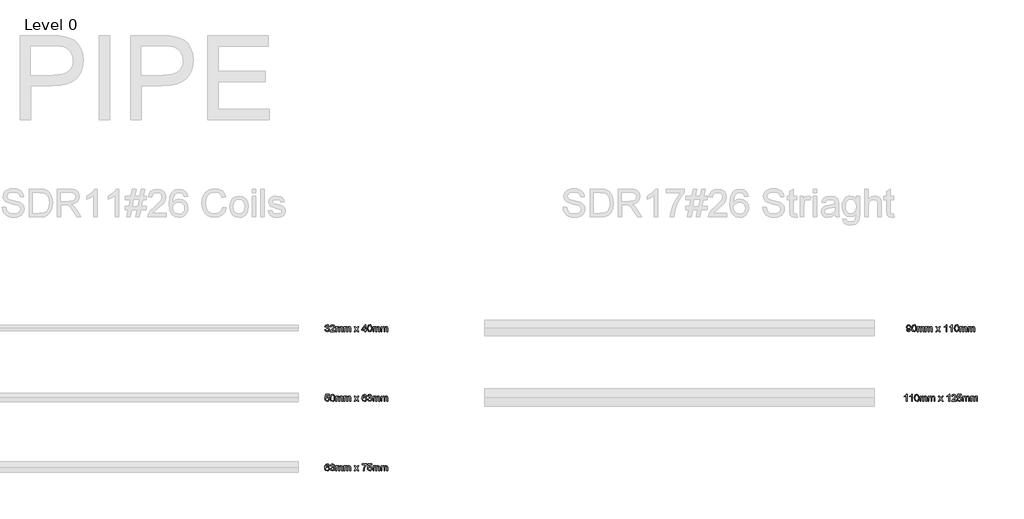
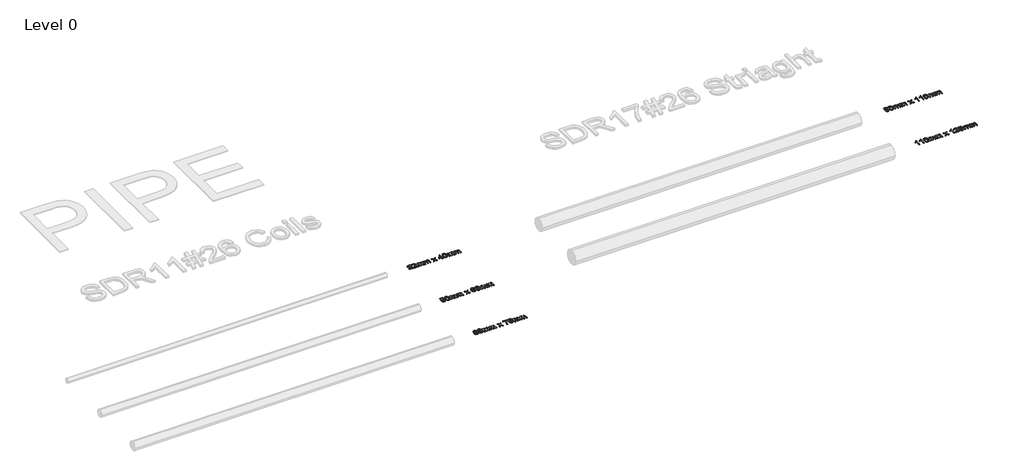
# One storey, part 20 of 21: 5 proxies.
"""IFC4 building model written with IfcOpenShell, lengths in millimetres."""

from ifc_helpers import new_model, si_unit, origin, origin_with_axes, place, context, project, spatial, polyline, outline, extrude, element, save

model = new_model("IFC4")

# Units and contexts
model_context = context("Model", 3, world=origin())
ifc_project = project(units=[si_unit("LENGTHUNIT", "METRE", prefix="MILLI")], contexts=[model_context])

# Site, building, storey
site = spatial("IfcSite", under=ifc_project)
building = spatial("IfcBuilding", under=site)
storey = spatial("IfcBuildingStorey", under=building, Name="Level 0", Elevation=0.0)

# Proxies
placement = place(None, origin())
element("IfcBuildingElementProxy", 1, Name="50mm", ObjectType="50mm", at=placement, inside=storey, context=model_context, shape_type="SweptSolid", body=[
    extrude(outline(polyline([(-5138.5395132, 3335.1305906), (-5132.2609938, 3335.9154055), (-5128.7967717, 3329.3057923), (-5122.3159172, 3327.2824414), (-5114.6884972, 3330.0660818), (-5111.8558058, 3336.9577378), (-5114.6639717, 3343.4508551), (-5121.8008824, 3346.0198977), (-5126.2032036, 3345.3331846), (-5125.5042278, 3351.611704), (-5117.3740358, 3353.3407494), (-5114.2102506, 3358.8835048), (-5116.5033817, 3363.7947294), (-5122.4140191, 3365.7383726), (-5128.3982329, 3363.7763353), (-5131.4761789, 3357.8902234), (-5137.7546983, 3358.6750383), (-5132.6166131, 3368.522013), (-5122.6347483, 3372.016892), (-5115.0625106, 3370.293978), (-5109.7650098, 3365.5850884), (-5107.9317312, 3359.2513868), (-5109.6730393, 3353.4633767), (-5114.8233873, 3349.3063101), (-5107.9807821, 3345.0143535), (-5105.5772864, 3336.8473732), (-5110.3842778, 3325.6147097), (-5122.5366464, 3321.003922), (-5133.5485808, 3324.9402593), (-5138.5395132, 3335.1305906)])), origin_with_axes(), (0.0, 0.0, 1.0), 5.0),
    extrude(outline(polyline([(-5067.9061701, 3328.0672563), (-5067.9061701, 3321.7887369), (-5100.8683969, 3321.7887369), (-5100.1939466, 3326.1174817), (-5096.3802366, 3332.7822772), (-5088.5198246, 3340.0602093), (-5077.6795685, 3350.5203207), (-5074.9695044, 3357.632706), (-5077.5262843, 3363.3900592), (-5084.2033425, 3365.7383726), (-5091.1624436, 3363.4452415), (-5093.8050626, 3357.1054084), (-5100.083582, 3357.8902234), (-5095.2704592, 3368.3993857), (-5084.0684525, 3372.016892), (-5072.8296575, 3367.9947155), (-5068.6909851, 3358.0128507), (-5069.8068938, 3352.0592937), (-5073.5163706, 3345.9034017), (-5082.5110853, 3337.3010944), (-5089.7338352, 3331.2616983), (-5092.5665265, 3328.0672563), (-5067.9061701, 3328.0672563)])), origin_with_axes(), (0.0, 0.0, 1.0), 5.0),
    extrude(outline(polyline([(-5060.0580209, 3321.7887369), (-5060.0580209, 3358.6750383), (-5053.7795015, 3358.6750383), (-5053.7795015, 3352.6049854), (-5049.4630194, 3357.5775237), (-5043.3193901, 3359.4598532), (-5037.028608, 3357.5407355), (-5033.5705173, 3352.163527), (-5028.6715554, 3357.6357717), (-5022.4850065, 3359.4598532), (-5014.2751066, 3356.4248268), (-5011.3994957, 3347.0744927), (-5011.3994957, 3321.7887369), (-5017.6780151, 3321.7887369), (-5017.6780151, 3344.3766914), (-5018.2604949, 3349.6190098), (-5020.369685, 3352.2003152), (-5023.9565344, 3353.1813338), (-5030.1308206, 3350.6674735), (-5032.5894986, 3342.6108578), (-5032.5894986, 3321.7887369), (-5038.868018, 3321.7887369), (-5038.868018, 3345.0756672), (-5040.3211519, 3351.1579829), (-5045.0852237, 3353.1813338), (-5049.7327996, 3351.8324332), (-5052.8230083, 3347.8838331), (-5053.7795015, 3340.3913031), (-5053.7795015, 3321.7887369), (-5060.0580209, 3321.7887369)])), origin_with_axes(), (0.0, 0.0, 1.0), 5.0),
    extrude(outline(polyline([(-5001.9817166, 3321.7887369), (-5001.9817166, 3358.6750383), (-4995.7031972, 3358.6750383), (-4995.7031972, 3352.6049854), (-4991.3867151, 3357.5775237), (-4985.2430858, 3359.4598532), (-4978.9523037, 3357.5407355), (-4975.4942129, 3352.163527), (-4970.595251, 3357.6357717), (-4964.4087022, 3359.4598532), (-4956.1988023, 3356.4248268), (-4953.3231914, 3347.0744927), (-4953.3231914, 3321.7887369), (-4959.6017108, 3321.7887369), (-4959.6017108, 3344.3766914), (-4960.1841906, 3349.6190098), (-4962.2933807, 3352.2003152), (-4965.8802301, 3353.1813338), (-4972.0545163, 3350.6674735), (-4974.5131943, 3342.6108578), (-4974.5131943, 3321.7887369), (-4980.7917137, 3321.7887369), (-4980.7917137, 3345.0756672), (-4982.2448476, 3351.1579829), (-4987.0089194, 3353.1813338), (-4991.6564953, 3351.8324332), (-4994.746704, 3347.8838331), (-4995.7031972, 3340.3913031), (-4995.7031972, 3321.7887369), (-5001.9817166, 3321.7887369)])), origin_with_axes(), (0.0, 0.0, 1.0), 5.0),
    extrude(outline(polyline([(-4928.2091138, 3321.7887369), (-4914.7936837, 3340.3299895), (-4927.4242989, 3358.6750383), (-4919.8704553, 3358.6750383), (-4913.7758769, 3349.8458704), (-4910.9309228, 3345.6765411), (-4908.4661134, 3349.085581), (-4901.5254065, 3358.6750383), (-4893.9715628, 3358.6750383), (-4907.2398401, 3340.3299895), (-4894.4620721, 3321.7887369), (-4902.0159158, 3321.7887369), (-4909.7046495, 3332.9355614), (-4911.1148638, 3334.9711751), (-4920.6552702, 3321.7887369), (-4928.2091138, 3321.7887369)])), origin_with_axes(), (0.0, 0.0, 1.0), 5.0),
    extrude(outline(polyline([(-4850.5124365, 3321.7887369), (-4850.5124365, 3333.5609608), (-4873.2720692, 3333.5609608), (-4873.2720692, 3339.8394801), (-4848.9428066, 3371.2320771), (-4844.2339171, 3371.2320771), (-4844.2339171, 3339.8394801), (-4837.9553977, 3339.8394801), (-4837.9553977, 3333.5609608), (-4844.2339171, 3333.5609608), (-4844.2339171, 3321.7887369), (-4850.5124365, 3321.7887369)]), holes=[polyline([(-4850.5124365, 3339.8394801), (-4850.5124365, 3359.239124), (-4865.5465473, 3339.8394801), (-4850.5124365, 3339.8394801)])]), origin_with_axes(), (0.0, 0.0, 1.0), 5.0),
    extrude(outline(polyline([(-4832.4616932, 3346.4981443), (-4830.6161519, 3360.9497753), (-4825.1347102, 3369.2823025), (-4815.9805798, 3372.016892), (-4808.6474654, 3370.3982112), (-4803.5829566, 3365.7322412), (-4800.6399006, 3358.3010249), (-4799.4994665, 3346.4981443), (-4801.3266137, 3332.1078269), (-4806.7896613, 3323.7569056), (-4815.9805798, 3321.003922), (-4827.4584981, 3325.7863879), (-4831.2108944, 3334.2813963), (-4832.4616932, 3346.4981443)]), holes=[polyline([(-4826.1831738, 3346.510407), (-4823.2401179, 3330.9183418), (-4815.9805798, 3327.2824414), (-4808.7210418, 3330.9306045), (-4805.7779858, 3346.510407), (-4808.6229399, 3361.9246626), (-4816.0541562, 3365.7383726), (-4823.142016, 3362.3783837), (-4826.1831738, 3346.510407)])]), origin_with_axes(), (0.0, 0.0, 1.0), 5.0),
    extrude(outline(polyline([(-4792.4361321, 3321.7887369), (-4792.4361321, 3358.6750383), (-4786.1576128, 3358.6750383), (-4786.1576128, 3352.6049854), (-4781.8411307, 3357.5775237), (-4775.6975014, 3359.4598532), (-4769.4067193, 3357.5407355), (-4765.9486285, 3352.163527), (-4761.0496666, 3357.6357717), (-4754.8631177, 3359.4598532), (-4746.6532178, 3356.4248268), (-4743.7776069, 3347.0744927), (-4743.7776069, 3321.7887369), (-4750.0561263, 3321.7887369), (-4750.0561263, 3344.3766914), (-4750.6386061, 3349.6190098), (-4752.7477962, 3352.2003152), (-4756.3346457, 3353.1813338), (-4762.5089318, 3350.6674735), (-4764.9676098, 3342.6108578), (-4764.9676098, 3321.7887369), (-4771.2461292, 3321.7887369), (-4771.2461292, 3345.0756672), (-4772.6992631, 3351.1579829), (-4777.4633349, 3353.1813338), (-4782.1109108, 3351.8324332), (-4785.2011196, 3347.8838331), (-4786.1576128, 3340.3913031), (-4786.1576128, 3321.7887369), (-4792.4361321, 3321.7887369)])), origin_with_axes(), (0.0, 0.0, 1.0), 5.0),
    extrude(outline(polyline([(-4734.3598278, 3321.7887369), (-4734.3598278, 3358.6750383), (-4728.0813085, 3358.6750383), (-4728.0813085, 3352.6049854), (-4723.7648264, 3357.5775237), (-4717.6211971, 3359.4598532), (-4711.3304149, 3357.5407355), (-4707.8723242, 3352.163527), (-4702.9733623, 3357.6357717), (-4696.7868134, 3359.4598532), (-4688.5769135, 3356.4248268), (-4685.7013026, 3347.0744927), (-4685.7013026, 3321.7887369), (-4691.979822, 3321.7887369), (-4691.979822, 3344.3766914), (-4692.5623018, 3349.6190098), (-4694.6714919, 3352.2003152), (-4698.2583414, 3353.1813338), (-4704.4326275, 3350.6674735), (-4706.8913055, 3342.6108578), (-4706.8913055, 3321.7887369), (-4713.1698249, 3321.7887369), (-4713.1698249, 3345.0756672), (-4714.6229588, 3351.1579829), (-4719.3870306, 3353.1813338), (-4724.0346065, 3351.8324332), (-4727.1248153, 3347.8838331), (-4728.0813085, 3340.3913031), (-4728.0813085, 3321.7887369), (-4734.3598278, 3321.7887369)])), origin_with_axes(), (0.0, 0.0, 1.0), 5.0),
])
element("IfcBuildingElementProxy", 2, Name="50mm", ObjectType="50mm", at=placement, inside=storey, context=model_context, shape_type="SweptSolid", body=[
    extrude(outline(polyline([(-5138.5395132, 2835.1305906), (-5132.2609938, 2835.9154055), (-5129.0972087, 2829.4468138), (-5122.5366464, 2827.2824414), (-5114.6639717, 2830.2929424), (-5111.8558058, 2838.282113), (-5114.4861621, 2845.7378548), (-5122.4385446, 2848.4724443), (-5127.9506431, 2847.381061), (-5131.4761789, 2844.5483697), (-5137.7546983, 2845.3331846), (-5132.2609938, 2871.2320771), (-5107.9317312, 2871.2320771), (-5107.9317312, 2864.9535577), (-5127.1842223, 2864.9535577), (-5129.8697609, 2851.1211947), (-5120.6849737, 2854.7509637), (-5109.9489508, 2850.2505406), (-5105.5772864, 2838.6745205), (-5109.5136238, 2827.024924), (-5115.1667438, 2822.5091725), (-5122.5611719, 2821.003922), (-5133.6405513, 2824.8728143), (-5138.5395132, 2835.1305906)])), origin_with_axes(), (0.0, 0.0, 1.0), 5.0),
    extrude(outline(polyline([(-5100.083582, 2846.4981443), (-5098.2380406, 2860.9497753), (-5092.7565989, 2869.2823025), (-5083.6024686, 2872.016892), (-5076.2693542, 2870.3982112), (-5071.2048454, 2865.7322412), (-5068.2617894, 2858.3010249), (-5067.1213552, 2846.4981443), (-5068.9485025, 2832.1078269), (-5074.4115501, 2823.7569056), (-5083.6024686, 2821.003922), (-5095.0803868, 2825.7863879), (-5098.8327832, 2834.2813963), (-5100.083582, 2846.4981443)]), holes=[polyline([(-5093.8050626, 2846.510407), (-5090.8620066, 2830.9183418), (-5083.6024686, 2827.2824414), (-5076.3429306, 2830.9306045), (-5073.3998746, 2846.510407), (-5076.2448287, 2861.9246626), (-5083.676045, 2865.7383726), (-5090.7639048, 2862.3783837), (-5093.8050626, 2846.510407)])]), origin_with_axes(), (0.0, 0.0, 1.0), 5.0),
    extrude(outline(polyline([(-5060.0580209, 2821.7887369), (-5060.0580209, 2858.6750383), (-5053.7795015, 2858.6750383), (-5053.7795015, 2852.6049854), (-5049.4630194, 2857.5775237), (-5043.3193901, 2859.4598532), (-5037.028608, 2857.5407355), (-5033.5705173, 2852.163527), (-5028.6715554, 2857.6357717), (-5022.4850065, 2859.4598532), (-5014.2751066, 2856.4248268), (-5011.3994957, 2847.0744927), (-5011.3994957, 2821.7887369), (-5017.6780151, 2821.7887369), (-5017.6780151, 2844.3766914), (-5018.2604949, 2849.6190098), (-5020.369685, 2852.2003152), (-5023.9565344, 2853.1813338), (-5030.1308206, 2850.6674735), (-5032.5894986, 2842.6108578), (-5032.5894986, 2821.7887369), (-5038.868018, 2821.7887369), (-5038.868018, 2845.0756672), (-5040.3211519, 2851.1579829), (-5045.0852237, 2853.1813338), (-5049.7327996, 2851.8324332), (-5052.8230083, 2847.8838331), (-5053.7795015, 2840.3913031), (-5053.7795015, 2821.7887369), (-5060.0580209, 2821.7887369)])), origin_with_axes(), (0.0, 0.0, 1.0), 5.0),
    extrude(outline(polyline([(-5001.9817166, 2821.7887369), (-5001.9817166, 2858.6750383), (-4995.7031972, 2858.6750383), (-4995.7031972, 2852.6049854), (-4991.3867151, 2857.5775237), (-4985.2430858, 2859.4598532), (-4978.9523037, 2857.5407355), (-4975.4942129, 2852.163527), (-4970.595251, 2857.6357717), (-4964.4087022, 2859.4598532), (-4956.1988023, 2856.4248268), (-4953.3231914, 2847.0744927), (-4953.3231914, 2821.7887369), (-4959.6017108, 2821.7887369), (-4959.6017108, 2844.3766914), (-4960.1841906, 2849.6190098), (-4962.2933807, 2852.2003152), (-4965.8802301, 2853.1813338), (-4972.0545163, 2850.6674735), (-4974.5131943, 2842.6108578), (-4974.5131943, 2821.7887369), (-4980.7917137, 2821.7887369), (-4980.7917137, 2845.0756672), (-4982.2448476, 2851.1579829), (-4987.0089194, 2853.1813338), (-4991.6564953, 2851.8324332), (-4994.746704, 2847.8838331), (-4995.7031972, 2840.3913031), (-4995.7031972, 2821.7887369), (-5001.9817166, 2821.7887369)])), origin_with_axes(), (0.0, 0.0, 1.0), 5.0),
    extrude(outline(polyline([(-4928.2091138, 2821.7887369), (-4914.7936837, 2840.3299895), (-4927.4242989, 2858.6750383), (-4919.8704553, 2858.6750383), (-4913.7758769, 2849.8458704), (-4910.9309228, 2845.6765411), (-4908.4661134, 2849.085581), (-4901.5254065, 2858.6750383), (-4893.9715628, 2858.6750383), (-4907.2398401, 2840.3299895), (-4894.4620721, 2821.7887369), (-4902.0159158, 2821.7887369), (-4909.7046495, 2832.9355614), (-4911.1148638, 2834.9711751), (-4920.6552702, 2821.7887369), (-4928.2091138, 2821.7887369)])), origin_with_axes(), (0.0, 0.0, 1.0), 5.0),
    extrude(outline(polyline([(-4838.7402126, 2858.6750383), (-4845.018732, 2857.8902234), (-4847.3977022, 2863.1264104), (-4853.6884843, 2865.7383726), (-4859.3538671, 2864.2177937), (-4863.6396923, 2858.5094914), (-4865.42392, 2847.3197474), (-4859.887296, 2852.3290739), (-4853.0262968, 2853.9661488), (-4842.3577189, 2849.4902511), (-4837.9553977, 2837.9264938), (-4840.0277996, 2829.2628728), (-4845.7299705, 2823.1315062), (-4853.9582645, 2821.003922), (-4866.7544265, 2826.6447792), (-4870.4654362, 2834.1127837), (-4871.7024394, 2845.2350827), (-4870.3290133, 2857.7400049), (-4866.2087349, 2866.2901956), (-4860.5832061, 2870.5852179), (-4853.2960769, 2872.016892), (-4843.3755257, 2868.4729621), (-4838.7402126, 2858.6750383)]), holes=[polyline([(-4865.42392, 2838.0245956), (-4863.9707861, 2832.5860735), (-4860.1080252, 2828.6374734), (-4854.4487738, 2827.2824414), (-4847.0482143, 2830.0906073), (-4844.2339171, 2837.7180273), (-4847.0114261, 2845.0204849), (-4854.7062912, 2847.6876294), (-4862.3030544, 2845.0204849), (-4865.42392, 2838.0245956)])]), origin_with_axes(), (0.0, 0.0, 1.0), 5.0),
    extrude(outline(polyline([(-4832.4616932, 2835.1305906), (-4826.1831738, 2835.9154055), (-4822.7189517, 2829.3057923), (-4816.2380972, 2827.2824414), (-4808.6106772, 2830.0660818), (-4805.7779858, 2836.9577378), (-4808.5861517, 2843.4508551), (-4815.7230624, 2846.0198977), (-4820.1253837, 2845.3331846), (-4819.4264079, 2851.611704), (-4811.2962158, 2853.3407494), (-4808.1324306, 2858.8835048), (-4810.4255617, 2863.7947294), (-4816.3361991, 2865.7383726), (-4822.3204129, 2863.7763353), (-4825.3983589, 2857.8902234), (-4831.6768783, 2858.6750383), (-4826.5387931, 2868.522013), (-4816.5569283, 2872.016892), (-4808.9846906, 2870.293978), (-4803.6871898, 2865.5850884), (-4801.8539112, 2859.2513868), (-4803.5952193, 2853.4633767), (-4808.7455673, 2849.3063101), (-4801.9029622, 2845.0143535), (-4799.4994665, 2836.8473732), (-4804.3064579, 2825.6147097), (-4816.4588264, 2821.003922), (-4827.4707608, 2824.9402593), (-4832.4616932, 2835.1305906)])), origin_with_axes(), (0.0, 0.0, 1.0), 5.0),
    extrude(outline(polyline([(-4792.4361321, 2821.7887369), (-4792.4361321, 2858.6750383), (-4786.1576128, 2858.6750383), (-4786.1576128, 2852.6049854), (-4781.8411307, 2857.5775237), (-4775.6975014, 2859.4598532), (-4769.4067193, 2857.5407355), (-4765.9486285, 2852.163527), (-4761.0496666, 2857.6357717), (-4754.8631177, 2859.4598532), (-4746.6532178, 2856.4248268), (-4743.7776069, 2847.0744927), (-4743.7776069, 2821.7887369), (-4750.0561263, 2821.7887369), (-4750.0561263, 2844.3766914), (-4750.6386061, 2849.6190098), (-4752.7477962, 2852.2003152), (-4756.3346457, 2853.1813338), (-4762.5089318, 2850.6674735), (-4764.9676098, 2842.6108578), (-4764.9676098, 2821.7887369), (-4771.2461292, 2821.7887369), (-4771.2461292, 2845.0756672), (-4772.6992631, 2851.1579829), (-4777.4633349, 2853.1813338), (-4782.1109108, 2851.8324332), (-4785.2011196, 2847.8838331), (-4786.1576128, 2840.3913031), (-4786.1576128, 2821.7887369), (-4792.4361321, 2821.7887369)])), origin_with_axes(), (0.0, 0.0, 1.0), 5.0),
    extrude(outline(polyline([(-4734.3598278, 2821.7887369), (-4734.3598278, 2858.6750383), (-4728.0813085, 2858.6750383), (-4728.0813085, 2852.6049854), (-4723.7648264, 2857.5775237), (-4717.6211971, 2859.4598532), (-4711.3304149, 2857.5407355), (-4707.8723242, 2852.163527), (-4702.9733623, 2857.6357717), (-4696.7868134, 2859.4598532), (-4688.5769135, 2856.4248268), (-4685.7013026, 2847.0744927), (-4685.7013026, 2821.7887369), (-4691.979822, 2821.7887369), (-4691.979822, 2844.3766914), (-4692.5623018, 2849.6190098), (-4694.6714919, 2852.2003152), (-4698.2583414, 2853.1813338), (-4704.4326275, 2850.6674735), (-4706.8913055, 2842.6108578), (-4706.8913055, 2821.7887369), (-4713.1698249, 2821.7887369), (-4713.1698249, 2845.0756672), (-4714.6229588, 2851.1579829), (-4719.3870306, 2853.1813338), (-4724.0346065, 2851.8324332), (-4727.1248153, 2847.8838331), (-4728.0813085, 2840.3913031), (-4728.0813085, 2821.7887369), (-4734.3598278, 2821.7887369)])), origin_with_axes(), (0.0, 0.0, 1.0), 5.0),
])
element("IfcBuildingElementProxy", 3, Name="50mm", ObjectType="50mm", at=placement, inside=storey, context=model_context, shape_type="SweptSolid", body=[
    extrude(outline(polyline([(-5106.3621014, 2358.6750383), (-5112.6406208, 2357.8902234), (-5115.019591, 2363.1264104), (-5121.3103731, 2365.7383726), (-5126.9757558, 2364.2177937), (-5131.2615811, 2358.5094914), (-5133.0458088, 2347.3197474), (-5127.5091847, 2352.3290739), (-5120.6481855, 2353.9661488), (-5109.9796077, 2349.4902511), (-5105.5772864, 2337.9264938), (-5107.6496883, 2329.2628728), (-5113.3518593, 2323.1315062), (-5121.5801532, 2321.003922), (-5134.3763153, 2326.6447792), (-5138.0873249, 2334.1127837), (-5139.3243281, 2345.2350827), (-5137.950902, 2357.7400049), (-5133.8306237, 2366.2901956), (-5128.2050948, 2370.5852179), (-5120.9179656, 2372.016892), (-5110.9974145, 2368.4729621), (-5106.3621014, 2358.6750383)]), holes=[polyline([(-5133.0458088, 2338.0245956), (-5131.5926749, 2332.5860735), (-5127.7299139, 2328.6374734), (-5122.0706626, 2327.2824414), (-5114.6701031, 2330.0906073), (-5111.8558058, 2337.7180273), (-5114.6333149, 2345.0204849), (-5122.32818, 2347.6876294), (-5129.9249432, 2345.0204849), (-5133.0458088, 2338.0245956)])]), origin_with_axes(), (0.0, 0.0, 1.0), 5.0),
    extrude(outline(polyline([(-5100.083582, 2335.1305906), (-5093.8050626, 2335.9154055), (-5090.3408405, 2329.3057923), (-5083.859986, 2327.2824414), (-5076.232566, 2330.0660818), (-5073.3998746, 2336.9577378), (-5076.2080405, 2343.4508551), (-5083.3449512, 2346.0198977), (-5087.7472724, 2345.3331846), (-5087.0482966, 2351.611704), (-5078.9181045, 2353.3407494), (-5075.7543194, 2358.8835048), (-5078.0474505, 2363.7947294), (-5083.9580879, 2365.7383726), (-5089.9423016, 2363.7763353), (-5093.0202477, 2357.8902234), (-5099.2987671, 2358.6750383), (-5094.1606819, 2368.522013), (-5084.1788171, 2372.016892), (-5076.6065793, 2370.293978), (-5071.3090786, 2365.5850884), (-5069.4758, 2359.2513868), (-5071.2171081, 2353.4633767), (-5076.367456, 2349.3063101), (-5069.5248509, 2345.0143535), (-5067.1213552, 2336.8473732), (-5071.9283466, 2325.6147097), (-5084.0807152, 2321.003922), (-5095.0926496, 2324.9402593), (-5100.083582, 2335.1305906)])), origin_with_axes(), (0.0, 0.0, 1.0), 5.0),
    extrude(outline(polyline([(-5060.0580209, 2321.7887369), (-5060.0580209, 2358.6750383), (-5053.7795015, 2358.6750383), (-5053.7795015, 2352.6049854), (-5049.4630194, 2357.5775237), (-5043.3193901, 2359.4598532), (-5037.028608, 2357.5407355), (-5033.5705173, 2352.163527), (-5028.6715554, 2357.6357717), (-5022.4850065, 2359.4598532), (-5014.2751066, 2356.4248268), (-5011.3994957, 2347.0744927), (-5011.3994957, 2321.7887369), (-5017.6780151, 2321.7887369), (-5017.6780151, 2344.3766914), (-5018.2604949, 2349.6190098), (-5020.369685, 2352.2003152), (-5023.9565344, 2353.1813338), (-5030.1308206, 2350.6674735), (-5032.5894986, 2342.6108578), (-5032.5894986, 2321.7887369), (-5038.868018, 2321.7887369), (-5038.868018, 2345.0756672), (-5040.3211519, 2351.1579829), (-5045.0852237, 2353.1813338), (-5049.7327996, 2351.8324332), (-5052.8230083, 2347.8838331), (-5053.7795015, 2340.3913031), (-5053.7795015, 2321.7887369), (-5060.0580209, 2321.7887369)])), origin_with_axes(), (0.0, 0.0, 1.0), 5.0),
    extrude(outline(polyline([(-5001.9817166, 2321.7887369), (-5001.9817166, 2358.6750383), (-4995.7031972, 2358.6750383), (-4995.7031972, 2352.6049854), (-4991.3867151, 2357.5775237), (-4985.2430858, 2359.4598532), (-4978.9523037, 2357.5407355), (-4975.4942129, 2352.163527), (-4970.595251, 2357.6357717), (-4964.4087022, 2359.4598532), (-4956.1988023, 2356.4248268), (-4953.3231914, 2347.0744927), (-4953.3231914, 2321.7887369), (-4959.6017108, 2321.7887369), (-4959.6017108, 2344.3766914), (-4960.1841906, 2349.6190098), (-4962.2933807, 2352.2003152), (-4965.8802301, 2353.1813338), (-4972.0545163, 2350.6674735), (-4974.5131943, 2342.6108578), (-4974.5131943, 2321.7887369), (-4980.7917137, 2321.7887369), (-4980.7917137, 2345.0756672), (-4982.2448476, 2351.1579829), (-4987.0089194, 2353.1813338), (-4991.6564953, 2351.8324332), (-4994.746704, 2347.8838331), (-4995.7031972, 2340.3913031), (-4995.7031972, 2321.7887369), (-5001.9817166, 2321.7887369)])), origin_with_axes(), (0.0, 0.0, 1.0), 5.0),
    extrude(outline(polyline([(-4928.2091138, 2321.7887369), (-4914.7936837, 2340.3299895), (-4927.4242989, 2358.6750383), (-4919.8704553, 2358.6750383), (-4913.7758769, 2349.8458704), (-4910.9309228, 2345.6765411), (-4908.4661134, 2349.085581), (-4901.5254065, 2358.6750383), (-4893.9715628, 2358.6750383), (-4907.2398401, 2340.3299895), (-4894.4620721, 2321.7887369), (-4902.0159158, 2321.7887369), (-4909.7046495, 2332.9355614), (-4911.1148638, 2334.9711751), (-4920.6552702, 2321.7887369), (-4928.2091138, 2321.7887369)])), origin_with_axes(), (0.0, 0.0, 1.0), 5.0),
    extrude(outline(polyline([(-4870.9176245, 2364.9535577), (-4870.9176245, 2371.2320771), (-4837.9553977, 2371.2320771), (-4837.9553977, 2366.1553055), (-4847.3057317, 2352.6479049), (-4854.4610365, 2335.4371589), (-4856.7909558, 2321.7887369), (-4863.0694752, 2321.7887369), (-4860.574009, 2335.9521937), (-4853.7252725, 2351.9611919), (-4844.2339171, 2364.9535577), (-4870.9176245, 2364.9535577)])), origin_with_axes(), (0.0, 0.0, 1.0), 5.0),
    extrude(outline(polyline([(-4832.4616932, 2335.1305906), (-4826.1831738, 2335.9154055), (-4823.0193887, 2329.4468138), (-4816.4588264, 2327.2824414), (-4808.5861517, 2330.2929424), (-4805.7779858, 2338.282113), (-4808.4083421, 2345.7378548), (-4816.3607246, 2348.4724443), (-4821.8728231, 2347.381061), (-4825.3983589, 2344.5483697), (-4831.6768783, 2345.3331846), (-4826.1831738, 2371.2320771), (-4801.8539112, 2371.2320771), (-4801.8539112, 2364.9535577), (-4821.1064023, 2364.9535577), (-4823.7919409, 2351.1211947), (-4814.6071537, 2354.7509637), (-4803.8711308, 2350.2505406), (-4799.4994665, 2338.6745205), (-4803.4358038, 2327.024924), (-4809.0889238, 2322.5091725), (-4816.4833519, 2321.003922), (-4827.5627313, 2324.8728143), (-4832.4616932, 2335.1305906)])), origin_with_axes(), (0.0, 0.0, 1.0), 5.0),
    extrude(outline(polyline([(-4792.4361321, 2321.7887369), (-4792.4361321, 2358.6750383), (-4786.1576128, 2358.6750383), (-4786.1576128, 2352.6049854), (-4781.8411307, 2357.5775237), (-4775.6975014, 2359.4598532), (-4769.4067193, 2357.5407355), (-4765.9486285, 2352.163527), (-4761.0496666, 2357.6357717), (-4754.8631177, 2359.4598532), (-4746.6532178, 2356.4248268), (-4743.7776069, 2347.0744927), (-4743.7776069, 2321.7887369), (-4750.0561263, 2321.7887369), (-4750.0561263, 2344.3766914), (-4750.6386061, 2349.6190098), (-4752.7477962, 2352.2003152), (-4756.3346457, 2353.1813338), (-4762.5089318, 2350.6674735), (-4764.9676098, 2342.6108578), (-4764.9676098, 2321.7887369), (-4771.2461292, 2321.7887369), (-4771.2461292, 2345.0756672), (-4772.6992631, 2351.1579829), (-4777.4633349, 2353.1813338), (-4782.1109108, 2351.8324332), (-4785.2011196, 2347.8838331), (-4786.1576128, 2340.3913031), (-4786.1576128, 2321.7887369), (-4792.4361321, 2321.7887369)])), origin_with_axes(), (0.0, 0.0, 1.0), 5.0),
    extrude(outline(polyline([(-4734.3598278, 2321.7887369), (-4734.3598278, 2358.6750383), (-4728.0813085, 2358.6750383), (-4728.0813085, 2352.6049854), (-4723.7648264, 2357.5775237), (-4717.6211971, 2359.4598532), (-4711.3304149, 2357.5407355), (-4707.8723242, 2352.163527), (-4702.9733623, 2357.6357717), (-4696.7868134, 2359.4598532), (-4688.5769135, 2356.4248268), (-4685.7013026, 2347.0744927), (-4685.7013026, 2321.7887369), (-4691.979822, 2321.7887369), (-4691.979822, 2344.3766914), (-4692.5623018, 2349.6190098), (-4694.6714919, 2352.2003152), (-4698.2583414, 2353.1813338), (-4704.4326275, 2350.6674735), (-4706.8913055, 2342.6108578), (-4706.8913055, 2321.7887369), (-4713.1698249, 2321.7887369), (-4713.1698249, 2345.0756672), (-4714.6229588, 2351.1579829), (-4719.3870306, 2353.1813338), (-4724.0346065, 2351.8324332), (-4727.1248153, 2347.8838331), (-4728.0813085, 2340.3913031), (-4728.0813085, 2321.7887369), (-4734.3598278, 2321.7887369)])), origin_with_axes(), (0.0, 0.0, 1.0), 5.0),
])
element("IfcBuildingElementProxy", 4, Name="50mm", ObjectType="50mm", at=placement, inside=storey, context=model_context, shape_type="SweptSolid", body=[
    extrude(outline(polyline([(-956.9826639, 3334.3457757), (-950.7041445, 3335.1305906), (-947.8837159, 3329.1402454), (-942.5371642, 3327.2824414), (-937.4542613, 3328.4780579), (-934.0084333, 3331.6724998), (-931.9544255, 3337.1294161), (-931.0469832, 3344.4134796), (-936.1053607, 3340.8818125), (-942.9908854, 3339.0546652), (-953.4816536, 3343.5183001), (-957.7674788, 3355.2782612), (-953.2731871, 3367.418367), (-942.0098667, 3372.016892), (-933.0642028, 3369.3926671), (-926.9083108, 3361.9123999), (-924.8052521, 3347.8593076), (-926.9021794, 3332.6105989), (-933.1377792, 3323.9715034), (-942.8314698, 3321.003922), (-952.4822408, 3324.5049323), (-956.9826639, 3334.3457757)]), holes=[polyline([(-931.0837714, 3355.425414), (-933.7938355, 3362.9547322), (-940.9920598, 3365.7383726), (-948.5459035, 3362.7401343), (-951.4889594, 3354.9716929), (-948.705319, 3348.0125918), (-941.1637381, 3345.3331846), (-933.9225942, 3348.0125918), (-931.0837714, 3355.425414)])]), origin_with_axes(), (0.0, 0.0, 1.0), 5.0),
    extrude(outline(polyline([(-919.3115476, 3346.4981443), (-917.4660063, 3360.9497753), (-911.9845645, 3369.2823025), (-902.8304342, 3372.016892), (-895.4973198, 3370.3982112), (-890.432811, 3365.7322412), (-887.489755, 3358.3010249), (-886.3493208, 3346.4981443), (-888.1764681, 3332.1078269), (-893.6395157, 3323.7569056), (-902.8304342, 3321.003922), (-914.3083525, 3325.7863879), (-918.0607488, 3334.2813963), (-919.3115476, 3346.4981443)]), holes=[polyline([(-913.0330282, 3346.510407), (-910.0899723, 3330.9183418), (-902.8304342, 3327.2824414), (-895.5708962, 3330.9306045), (-892.6278402, 3346.510407), (-895.4727943, 3361.9246626), (-902.9040106, 3365.7383726), (-909.9918704, 3362.3783837), (-913.0330282, 3346.510407)])]), origin_with_axes(), (0.0, 0.0, 1.0), 5.0),
    extrude(outline(polyline([(-879.2859865, 3321.7887369), (-879.2859865, 3358.6750383), (-873.0074671, 3358.6750383), (-873.0074671, 3352.6049854), (-868.6909851, 3357.5775237), (-862.5473557, 3359.4598532), (-856.2565736, 3357.5407355), (-852.7984829, 3352.163527), (-847.899521, 3357.6357717), (-841.7129721, 3359.4598532), (-833.5030722, 3356.4248268), (-830.6274613, 3347.0744927), (-830.6274613, 3321.7887369), (-836.9059807, 3321.7887369), (-836.9059807, 3344.3766914), (-837.4884605, 3349.6190098), (-839.5976506, 3352.2003152), (-843.1845001, 3353.1813338), (-849.3587862, 3350.6674735), (-851.8174642, 3342.6108578), (-851.8174642, 3321.7887369), (-858.0959836, 3321.7887369), (-858.0959836, 3345.0756672), (-859.5491175, 3351.1579829), (-864.3131893, 3353.1813338), (-868.9607652, 3351.8324332), (-872.0509739, 3347.8838331), (-873.0074671, 3340.3913031), (-873.0074671, 3321.7887369), (-879.2859865, 3321.7887369)])), origin_with_axes(), (0.0, 0.0, 1.0), 5.0),
    extrude(outline(polyline([(-821.2096822, 3321.7887369), (-821.2096822, 3358.6750383), (-814.9311628, 3358.6750383), (-814.9311628, 3352.6049854), (-810.6146808, 3357.5775237), (-804.4710514, 3359.4598532), (-798.1802693, 3357.5407355), (-794.7221786, 3352.163527), (-789.8232167, 3357.6357717), (-783.6366678, 3359.4598532), (-775.4267679, 3356.4248268), (-772.551157, 3347.0744927), (-772.551157, 3321.7887369), (-778.8296764, 3321.7887369), (-778.8296764, 3344.3766914), (-779.4121562, 3349.6190098), (-781.5213463, 3352.2003152), (-785.1081958, 3353.1813338), (-791.2824819, 3350.6674735), (-793.7411599, 3342.6108578), (-793.7411599, 3321.7887369), (-800.0196793, 3321.7887369), (-800.0196793, 3345.0756672), (-801.4728132, 3351.1579829), (-806.236885, 3353.1813338), (-810.8844609, 3351.8324332), (-813.9746696, 3347.8838331), (-814.9311628, 3340.3913031), (-814.9311628, 3321.7887369), (-821.2096822, 3321.7887369)])), origin_with_axes(), (0.0, 0.0, 1.0), 5.0),
    extrude(outline(polyline([(-747.4370795, 3321.7887369), (-734.0216494, 3340.3299895), (-746.6522645, 3358.6750383), (-739.0984209, 3358.6750383), (-733.0038425, 3349.8458704), (-730.1588884, 3345.6765411), (-727.694079, 3349.085581), (-720.7533721, 3358.6750383), (-713.1995284, 3358.6750383), (-726.4678057, 3340.3299895), (-713.6900378, 3321.7887369), (-721.2438814, 3321.7887369), (-728.9326151, 3332.9355614), (-730.3428294, 3334.9711751), (-739.8832358, 3321.7887369), (-747.4370795, 3321.7887369)])), origin_with_axes(), (0.0, 0.0, 1.0), 5.0),
    extrude(outline(polyline([(-666.6011424, 3321.7887369), (-672.8796618, 3321.7887369), (-672.8796618, 3360.9313812), (-678.8270873, 3356.6946069), (-685.4367005, 3353.5246904), (-685.4367005, 3359.4598532), (-676.2335193, 3365.3337024), (-670.6478443, 3372.016892), (-666.6011424, 3372.016892), (-666.6011424, 3321.7887369)])), origin_with_axes(), (0.0, 0.0, 1.0), 5.0),
    extrude(outline(polyline([(-628.1452111, 3321.7887369), (-634.4237305, 3321.7887369), (-634.4237305, 3360.9313812), (-640.3711561, 3356.6946069), (-646.9807693, 3353.5246904), (-646.9807693, 3359.4598532), (-637.7775881, 3365.3337024), (-632.1919131, 3372.016892), (-628.1452111, 3372.016892), (-628.1452111, 3321.7887369)])), origin_with_axes(), (0.0, 0.0, 1.0), 5.0),
    extrude(outline(polyline([(-613.2337276, 3346.4981443), (-611.3881863, 3360.9497753), (-605.9067445, 3369.2823025), (-596.7526142, 3372.016892), (-589.4194998, 3370.3982112), (-584.354991, 3365.7322412), (-581.411935, 3358.3010249), (-580.2715008, 3346.4981443), (-582.0986481, 3332.1078269), (-587.5616957, 3323.7569056), (-596.7526142, 3321.003922), (-608.2305325, 3325.7863879), (-611.9829288, 3334.2813963), (-613.2337276, 3346.4981443)]), holes=[polyline([(-606.9552082, 3346.510407), (-604.0121523, 3330.9183418), (-596.7526142, 3327.2824414), (-589.4930762, 3330.9306045), (-586.5500202, 3346.510407), (-589.3949743, 3361.9246626), (-596.8261906, 3365.7383726), (-603.9140504, 3362.3783837), (-606.9552082, 3346.510407)])]), origin_with_axes(), (0.0, 0.0, 1.0), 5.0),
    extrude(outline(polyline([(-573.2081665, 3321.7887369), (-573.2081665, 3358.6750383), (-566.9296472, 3358.6750383), (-566.9296472, 3352.6049854), (-562.6131651, 3357.5775237), (-556.4695358, 3359.4598532), (-550.1787536, 3357.5407355), (-546.7206629, 3352.163527), (-541.821701, 3357.6357717), (-535.6351521, 3359.4598532), (-527.4252522, 3356.4248268), (-524.5496413, 3347.0744927), (-524.5496413, 3321.7887369), (-530.8281607, 3321.7887369), (-530.8281607, 3344.3766914), (-531.4106405, 3349.6190098), (-533.5198306, 3352.2003152), (-537.1066801, 3353.1813338), (-543.2809662, 3350.6674735), (-545.7396442, 3342.6108578), (-545.7396442, 3321.7887369), (-552.0181636, 3321.7887369), (-552.0181636, 3345.0756672), (-553.4712975, 3351.1579829), (-558.2353693, 3353.1813338), (-562.8829452, 3351.8324332), (-565.973154, 3347.8838331), (-566.9296472, 3340.3913031), (-566.9296472, 3321.7887369), (-573.2081665, 3321.7887369)])), origin_with_axes(), (0.0, 0.0, 1.0), 5.0),
    extrude(outline(polyline([(-515.1318622, 3321.7887369), (-515.1318622, 3358.6750383), (-508.8533428, 3358.6750383), (-508.8533428, 3352.6049854), (-504.5368608, 3357.5775237), (-498.3932314, 3359.4598532), (-492.1024493, 3357.5407355), (-488.6443586, 3352.163527), (-483.7453967, 3357.6357717), (-477.5588478, 3359.4598532), (-469.3489479, 3356.4248268), (-466.473337, 3347.0744927), (-466.473337, 3321.7887369), (-472.7518564, 3321.7887369), (-472.7518564, 3344.3766914), (-473.3343362, 3349.6190098), (-475.4435263, 3352.2003152), (-479.0303758, 3353.1813338), (-485.2046619, 3350.6674735), (-487.6633399, 3342.6108578), (-487.6633399, 3321.7887369), (-493.9418593, 3321.7887369), (-493.9418593, 3345.0756672), (-495.3949932, 3351.1579829), (-500.159065, 3353.1813338), (-504.8066409, 3351.8324332), (-507.8968497, 3347.8838331), (-508.8533428, 3340.3913031), (-508.8533428, 3321.7887369), (-515.1318622, 3321.7887369)])), origin_with_axes(), (0.0, 0.0, 1.0), 5.0),
])
element("IfcBuildingElementProxy", 5, Name="50mm", ObjectType="50mm", at=placement, inside=storey, context=model_context, shape_type="SweptSolid", body=[
    extrude(outline(polyline([(-953.4509967, 2821.7887369), (-959.7295161, 2821.7887369), (-959.7295161, 2860.9313812), (-965.6769417, 2856.6946069), (-972.2865549, 2853.5246904), (-972.2865549, 2859.4598532), (-963.0833737, 2865.3337024), (-957.4976987, 2872.016892), (-953.4509967, 2872.016892), (-953.4509967, 2821.7887369)])), origin_with_axes(), (0.0, 0.0, 1.0), 5.0),
    extrude(outline(polyline([(-914.9950655, 2821.7887369), (-921.2735849, 2821.7887369), (-921.2735849, 2860.9313812), (-927.2210105, 2856.6946069), (-933.8306237, 2853.5246904), (-933.8306237, 2859.4598532), (-924.6274424, 2865.3337024), (-919.0417675, 2872.016892), (-914.9950655, 2872.016892), (-914.9950655, 2821.7887369)])), origin_with_axes(), (0.0, 0.0, 1.0), 5.0),
    extrude(outline(polyline([(-900.083582, 2846.4981443), (-898.2380406, 2860.9497753), (-892.7565989, 2869.2823025), (-883.6024686, 2872.016892), (-876.2693542, 2870.3982112), (-871.2048454, 2865.7322412), (-868.2617894, 2858.3010249), (-867.1213552, 2846.4981443), (-868.9485025, 2832.1078269), (-874.4115501, 2823.7569056), (-883.6024686, 2821.003922), (-895.0803868, 2825.7863879), (-898.8327832, 2834.2813963), (-900.083582, 2846.4981443)]), holes=[polyline([(-893.8050626, 2846.510407), (-890.8620066, 2830.9183418), (-883.6024686, 2827.2824414), (-876.3429306, 2830.9306045), (-873.3998746, 2846.510407), (-876.2448287, 2861.9246626), (-883.676045, 2865.7383726), (-890.7639048, 2862.3783837), (-893.8050626, 2846.510407)])]), origin_with_axes(), (0.0, 0.0, 1.0), 5.0),
    extrude(outline(polyline([(-860.0580209, 2821.7887369), (-860.0580209, 2858.6750383), (-853.7795015, 2858.6750383), (-853.7795015, 2852.6049854), (-849.4630194, 2857.5775237), (-843.3193901, 2859.4598532), (-837.028608, 2857.5407355), (-833.5705173, 2852.163527), (-828.6715554, 2857.6357717), (-822.4850065, 2859.4598532), (-814.2751066, 2856.4248268), (-811.3994957, 2847.0744927), (-811.3994957, 2821.7887369), (-817.6780151, 2821.7887369), (-817.6780151, 2844.3766914), (-818.2604949, 2849.6190098), (-820.369685, 2852.2003152), (-823.9565344, 2853.1813338), (-830.1308206, 2850.6674735), (-832.5894986, 2842.6108578), (-832.5894986, 2821.7887369), (-838.868018, 2821.7887369), (-838.868018, 2845.0756672), (-840.3211519, 2851.1579829), (-845.0852237, 2853.1813338), (-849.7327996, 2851.8324332), (-852.8230083, 2847.8838331), (-853.7795015, 2840.3913031), (-853.7795015, 2821.7887369), (-860.0580209, 2821.7887369)])), origin_with_axes(), (0.0, 0.0, 1.0), 5.0),
    extrude(outline(polyline([(-801.9817166, 2821.7887369), (-801.9817166, 2858.6750383), (-795.7031972, 2858.6750383), (-795.7031972, 2852.6049854), (-791.3867151, 2857.5775237), (-785.2430858, 2859.4598532), (-778.9523037, 2857.5407355), (-775.4942129, 2852.163527), (-770.595251, 2857.6357717), (-764.4087022, 2859.4598532), (-756.1988023, 2856.4248268), (-753.3231914, 2847.0744927), (-753.3231914, 2821.7887369), (-759.6017108, 2821.7887369), (-759.6017108, 2844.3766914), (-760.1841906, 2849.6190098), (-762.2933807, 2852.2003152), (-765.8802301, 2853.1813338), (-772.0545163, 2850.6674735), (-774.5131943, 2842.6108578), (-774.5131943, 2821.7887369), (-780.7917137, 2821.7887369), (-780.7917137, 2845.0756672), (-782.2448476, 2851.1579829), (-787.0089194, 2853.1813338), (-791.6564953, 2851.8324332), (-794.746704, 2847.8838331), (-795.7031972, 2840.3913031), (-795.7031972, 2821.7887369), (-801.9817166, 2821.7887369)])), origin_with_axes(), (0.0, 0.0, 1.0), 5.0),
    extrude(outline(polyline([(-728.2091138, 2821.7887369), (-714.7936837, 2840.3299895), (-727.4242989, 2858.6750383), (-719.8704553, 2858.6750383), (-713.7758769, 2849.8458704), (-710.9309228, 2845.6765411), (-708.4661134, 2849.085581), (-701.5254065, 2858.6750383), (-693.9715628, 2858.6750383), (-707.2398401, 2840.3299895), (-694.4620721, 2821.7887369), (-702.0159158, 2821.7887369), (-709.7046495, 2832.9355614), (-711.1148638, 2834.9711751), (-720.6552702, 2821.7887369), (-728.2091138, 2821.7887369)])), origin_with_axes(), (0.0, 0.0, 1.0), 5.0),
    extrude(outline(polyline([(-647.3731768, 2821.7887369), (-653.6516961, 2821.7887369), (-653.6516961, 2860.9313812), (-659.5991217, 2856.6946069), (-666.2087349, 2853.5246904), (-666.2087349, 2859.4598532), (-657.0055537, 2865.3337024), (-651.4198787, 2872.016892), (-647.3731768, 2872.016892), (-647.3731768, 2821.7887369)])), origin_with_axes(), (0.0, 0.0, 1.0), 5.0),
    extrude(outline(polyline([(-600.2842814, 2828.0672563), (-600.2842814, 2821.7887369), (-633.2465081, 2821.7887369), (-632.5720578, 2826.1174817), (-628.7583478, 2832.7822772), (-620.8979358, 2840.0602093), (-610.0576797, 2850.5203207), (-607.3476157, 2857.632706), (-609.9043956, 2863.3900592), (-616.5814538, 2865.7383726), (-623.5405548, 2863.4452415), (-626.1831738, 2857.1054084), (-632.4616932, 2857.8902234), (-627.6485705, 2868.3993857), (-616.4465637, 2872.016892), (-605.2077687, 2867.9947155), (-601.0690963, 2858.0128507), (-602.185005, 2852.0592937), (-605.8944818, 2845.9034017), (-614.8891966, 2837.3010944), (-622.1119464, 2831.2616983), (-624.9446378, 2828.0672563), (-600.2842814, 2828.0672563)])), origin_with_axes(), (0.0, 0.0, 1.0), 5.0),
    extrude(outline(polyline([(-594.005762, 2835.1305906), (-587.7272426, 2835.9154055), (-584.5634575, 2829.4468138), (-578.0028952, 2827.2824414), (-570.1302205, 2830.2929424), (-567.3220546, 2838.282113), (-569.9524109, 2845.7378548), (-577.9047933, 2848.4724443), (-583.4168919, 2847.381061), (-586.9424277, 2844.5483697), (-593.2209471, 2845.3331846), (-587.7272426, 2871.2320771), (-563.39798, 2871.2320771), (-563.39798, 2864.9535577), (-582.6504711, 2864.9535577), (-585.3360096, 2851.1211947), (-576.1512225, 2854.7509637), (-565.4151996, 2850.2505406), (-561.0435352, 2838.6745205), (-564.9798726, 2827.024924), (-570.6329926, 2822.5091725), (-578.0274207, 2821.003922), (-589.1068001, 2824.8728143), (-594.005762, 2835.1305906)])), origin_with_axes(), (0.0, 0.0, 1.0), 5.0),
    extrude(outline(polyline([(-553.9802009, 2821.7887369), (-553.9802009, 2858.6750383), (-547.7016815, 2858.6750383), (-547.7016815, 2852.6049854), (-543.3851995, 2857.5775237), (-537.2415701, 2859.4598532), (-530.950788, 2857.5407355), (-527.4926973, 2852.163527), (-522.5937354, 2857.6357717), (-516.4071865, 2859.4598532), (-508.1972866, 2856.4248268), (-505.3216757, 2847.0744927), (-505.3216757, 2821.7887369), (-511.6001951, 2821.7887369), (-511.6001951, 2844.3766914), (-512.1826749, 2849.6190098), (-514.291865, 2852.2003152), (-517.8787145, 2853.1813338), (-524.0530006, 2850.6674735), (-526.5116786, 2842.6108578), (-526.5116786, 2821.7887369), (-532.790198, 2821.7887369), (-532.790198, 2845.0756672), (-534.2433319, 2851.1579829), (-539.0074037, 2853.1813338), (-543.6549796, 2851.8324332), (-546.7451883, 2847.8838331), (-547.7016815, 2840.3913031), (-547.7016815, 2821.7887369), (-553.9802009, 2821.7887369)])), origin_with_axes(), (0.0, 0.0, 1.0), 5.0),
    extrude(outline(polyline([(-495.9038966, 2821.7887369), (-495.9038966, 2858.6750383), (-489.6253772, 2858.6750383), (-489.6253772, 2852.6049854), (-485.3088952, 2857.5775237), (-479.1652658, 2859.4598532), (-472.8744837, 2857.5407355), (-469.416393, 2852.163527), (-464.5174311, 2857.6357717), (-458.3308822, 2859.4598532), (-450.1209823, 2856.4248268), (-447.2453714, 2847.0744927), (-447.2453714, 2821.7887369), (-453.5238908, 2821.7887369), (-453.5238908, 2844.3766914), (-454.1063706, 2849.6190098), (-456.2155607, 2852.2003152), (-459.8024102, 2853.1813338), (-465.9766963, 2850.6674735), (-468.4353743, 2842.6108578), (-468.4353743, 2821.7887369), (-474.7138937, 2821.7887369), (-474.7138937, 2845.0756672), (-476.1670276, 2851.1579829), (-480.9310994, 2853.1813338), (-485.5786753, 2851.8324332), (-488.668884, 2847.8838331), (-489.6253772, 2840.3913031), (-489.6253772, 2821.7887369), (-495.9038966, 2821.7887369)])), origin_with_axes(), (0.0, 0.0, 1.0), 5.0),
])

save(model, "model.ifc")
